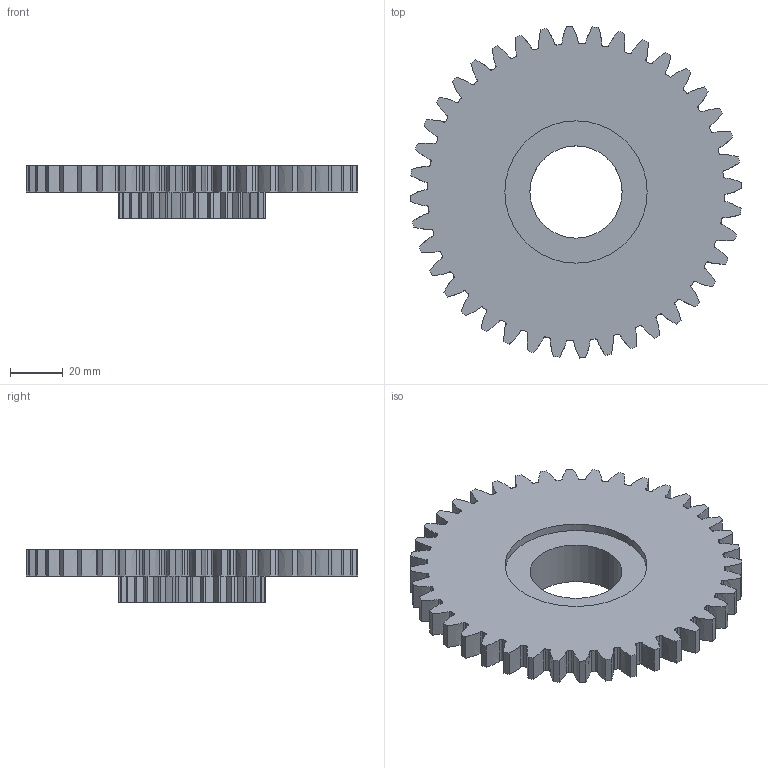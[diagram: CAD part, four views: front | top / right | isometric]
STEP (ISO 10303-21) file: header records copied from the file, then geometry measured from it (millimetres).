
FILE_DESCRIPTION (( 'STEP AP214' ), '1' );
FILE_NAME ('Pignon double.STEP', '2008-05-19T14:56:52', ( '' ), ( '' ), 'SwSTEP 2.0', 'SolidWorks 2005143', '' );
FILE_SCHEMA (( 'AUTOMOTIVE_DESIGN' ));
Length unit declared in the file: millimetre
Products named in the file (1): Pignon double
Bounding box: 125.97 x 125.97 x 20 mm (x, y, z)
Volume: 109971.9 mm3; surface area: 33512.5 mm2
Topology: 1 solids, 1 shells, 386 faces, 1146 edges, 764 vertices
Faces by surface type: cylinder 242, bspline 140, plane 4
Entity records: 15601 total; most frequent: CARTESIAN_POINT 5717, ORIENTED_EDGE 2292, DIRECTION 1844, EDGE_CURVE 1146, VERTEX_POINT 764, AXIS2_PLACEMENT_3D 731, CIRCLE 484, EDGE_LOOP 390
